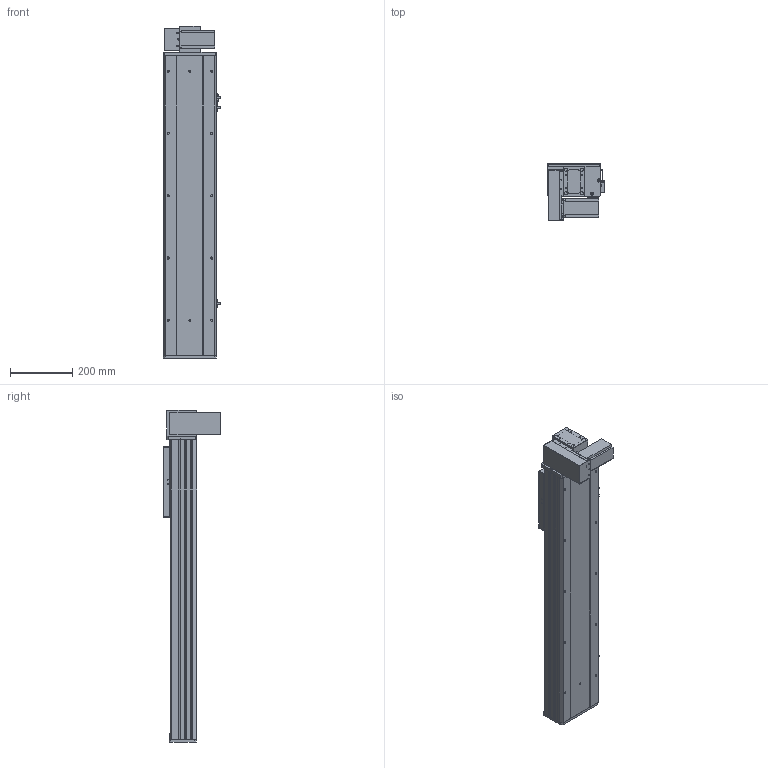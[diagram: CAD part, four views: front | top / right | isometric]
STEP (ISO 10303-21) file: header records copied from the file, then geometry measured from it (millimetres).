
FILE_DESCRIPTION (( 'STEP AP203' ), '1' );
FILE_NAME ('Y170CB-D105-S650-BM-P400W.STEP', '2020-02-20T06:16:34', ( '微软用户' ), ( '微软中国' ), 'SwSTEP 2.0', 'SolidWorks 2017', '' );
FILE_SCHEMA (( 'CONFIG_CONTROL_DESIGN' ));
Length unit declared in the file: millimetre
Products named in the file (18): B-源倛裔啣; Y170CB-D105-S650-BM-P400W; 0C--雄赽釱俋欶-170; 0B-萇儂楊擘啣; 70CB-詩湍--; san松下电机400不带刹车----; Y100-135俋离換覜ん--; 70CB-掛极-; Y170CB-陔俋离換覜結え---; --70CB --喘謫眊楊擘啣-; Y1埴倛裔; 70CB-耜裔啣-; 17B-耜蚾蟀諉啣----; 70C--詩湍揤踡え-; 00B-俋欶BM--163; 70CB--耜裔; 70B喘謫眊----; 70C-雄赽釱-奻-
Assembly tree (21 placements, depth 2):
  Y170CB-D105-S650-BM-P400W
    B-源倛裔啣
    0B-萇儂楊擘啣
    san松下电机400不带刹车----
    70CB-掛极-
    --70CB --喘謫眊楊擘啣-
    70CB-耜裔啣-  x2
    70C--詩湍揤踡え-  x2
    70CB--耜裔
    70C-雄赽釱-奻-
    0C--雄赽釱俋欶-170
    70CB-詩湍--
    Y100-135俋离換覜ん--  x3
    Y170CB-陔俋离換覜結え---
    Y1埴倛裔
    17B-耜蚾蟀諉啣----
    00B-俋欶BM--163
    70B喘謫眊----
Bounding box: 183.5 x 184 x 1066 mm (x, y, z)
Volume: 5161826 mm3; surface area: 1841886.9 mm2
Topology: 21 solids, 21 shells, 991 faces, 2645 edges, 1754 vertices
Faces by surface type: cylinder 505, plane 462, cone 24
Entity records: 31452 total; most frequent: CARTESIAN_POINT 5736, DIRECTION 5114, ORIENTED_EDGE 4772, EDGE_CURVE 2386, AXIS2_PLACEMENT_3D 1868, VERTEX_POINT 1584, LINE 1378, VECTOR 1378
